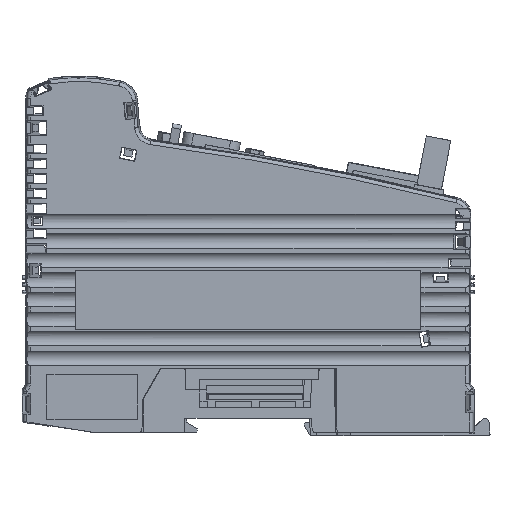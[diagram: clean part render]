
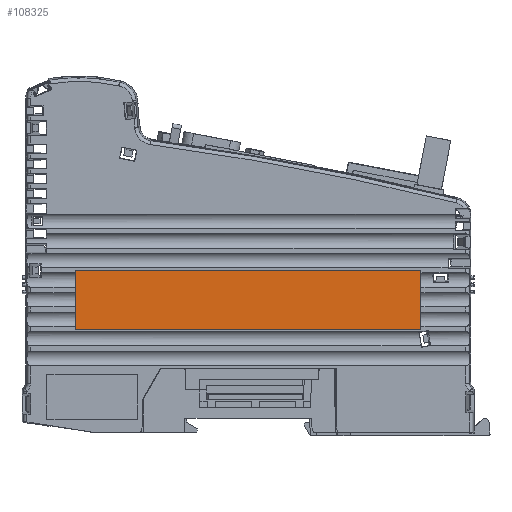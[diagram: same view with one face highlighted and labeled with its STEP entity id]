
A CAD part, left-side view. The second image highlights one B-rep face of the part: STEP entity #108325.
In plain terms, the highlighted planar face has unit normal (-1, 0, 0).
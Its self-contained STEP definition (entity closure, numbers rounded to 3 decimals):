
#8811=ORIENTED_EDGE('',*,*,#39436,.T.);
#8812=ORIENTED_EDGE('',*,*,#39435,.T.);
#8813=ORIENTED_EDGE('',*,*,#39438,.T.);
#8814=ORIENTED_EDGE('',*,*,#39430,.T.);
#8815=ORIENTED_EDGE('',*,*,#39432,.T.);
#8816=ORIENTED_EDGE('',*,*,#39433,.T.);
#8817=ORIENTED_EDGE('',*,*,#39439,.T.);
#8818=ORIENTED_EDGE('',*,*,#39440,.T.);
#8819=ORIENTED_EDGE('',*,*,#39441,.T.);
#8820=ORIENTED_EDGE('',*,*,#39437,.T.);
#39430=EDGE_CURVE('',#55022,#54156,#65975,.T.);
#39432=EDGE_CURVE('',#54156,#54163,#65977,.T.);
#39433=EDGE_CURVE('',#54163,#54166,#65978,.T.);
#39435=EDGE_CURVE('',#55019,#55023,#65980,.T.);
#39436=EDGE_CURVE('',#55020,#55019,#65981,.T.);
#39437=EDGE_CURVE('',#55021,#55020,#65982,.T.);
#39438=EDGE_CURVE('',#55023,#55022,#65983,.T.);
#39439=EDGE_CURVE('',#54166,#55024,#65984,.T.);
#39440=EDGE_CURVE('',#55024,#55025,#65985,.T.);
#39441=EDGE_CURVE('',#55025,#55021,#65986,.T.);
#54156=VERTEX_POINT('',#168531);
#54163=VERTEX_POINT('',#168636);
#54166=VERTEX_POINT('',#168743);
#55019=VERTEX_POINT('',#173596);
#55020=VERTEX_POINT('',#173600);
#55021=VERTEX_POINT('',#173604);
#55022=VERTEX_POINT('',#173609);
#55023=VERTEX_POINT('',#173617);
#55024=VERTEX_POINT('',#173626);
#55025=VERTEX_POINT('',#173628);
#65975=LINE('',#173608,#78945);
#65977=LINE('',#173612,#78947);
#65978=LINE('',#173614,#78948);
#65980=LINE('',#173618,#78950);
#65981=LINE('',#173620,#78951);
#65982=LINE('',#173622,#78952);
#65983=LINE('',#173624,#78953);
#65984=LINE('',#173625,#78954);
#65985=LINE('',#173627,#78955);
#65986=LINE('',#173629,#78956);
#78945=VECTOR('',#141632,1000.);
#78947=VECTOR('',#141636,1000.);
#78948=VECTOR('',#141639,1000.);
#78950=VECTOR('',#141643,1000.);
#78951=VECTOR('',#141646,1000.);
#78952=VECTOR('',#141649,1000.);
#78953=VECTOR('',#141652,1000.);
#78954=VECTOR('',#141653,1000.);
#78955=VECTOR('',#141654,1000.);
#78956=VECTOR('',#141655,1000.);
#90976=EDGE_LOOP('',(#8811,#8812,#8813,#8814,#8815,#8816,#8817,#8818,#8819,
#8820));
#97346=FACE_BOUND('',#90976,.T.);
#103525=PLANE('',#131067);
#108325=ADVANCED_FACE('',(#97346),#103525,.T.);
#131067=AXIS2_PLACEMENT_3D('',#173623,#141650,#141651);
#141632=DIRECTION('',(0.,0.,-1.));
#141636=DIRECTION('',(0.,0.,-1.));
#141639=DIRECTION('',(0.,0.,-1.));
#141643=DIRECTION('',(0.,0.,1.));
#141646=DIRECTION('',(0.,0.,1.));
#141649=DIRECTION('',(0.,0.,1.));
#141650=DIRECTION('',(-1.,0.,0.));
#141651=DIRECTION('',(0.,-1.,0.));
#141652=DIRECTION('',(0.,1.,0.));
#141653=DIRECTION('',(0.,0.,-1.));
#141654=DIRECTION('',(0.,-1.,0.));
#141655=DIRECTION('',(0.,0.,1.));
#168531=CARTESIAN_POINT('',(-11.5,48.483,42.8));
#168636=CARTESIAN_POINT('',(-11.5,48.483,37.3));
#168743=CARTESIAN_POINT('',(-11.5,48.483,31.8));
#173596=CARTESIAN_POINT('',(-11.5,-48.483,42.8));
#173600=CARTESIAN_POINT('',(-11.5,-48.483,37.3));
#173604=CARTESIAN_POINT('',(-11.5,-48.483,31.8));
#173608=CARTESIAN_POINT('',(-11.5,48.483,29.));
#173609=CARTESIAN_POINT('',(-11.5,48.483,45.483));
#173612=CARTESIAN_POINT('',(-11.5,48.483,29.));
#173614=CARTESIAN_POINT('',(-11.5,48.483,29.));
#173617=CARTESIAN_POINT('',(-11.5,-48.483,45.483));
#173618=CARTESIAN_POINT('',(-11.5,-48.483,29.));
#173620=CARTESIAN_POINT('',(-11.5,-48.483,29.));
#173622=CARTESIAN_POINT('',(-11.5,-48.483,29.));
#173623=CARTESIAN_POINT('',(-11.5,48.5,29.));
#173624=CARTESIAN_POINT('',(-11.5,48.5,45.483));
#173625=CARTESIAN_POINT('',(-11.5,48.483,29.));
#173626=CARTESIAN_POINT('',(-11.5,48.483,29.017));
#173627=CARTESIAN_POINT('',(-11.5,48.5,29.017));
#173628=CARTESIAN_POINT('',(-11.5,-48.483,29.017));
#173629=CARTESIAN_POINT('',(-11.5,-48.483,29.));
